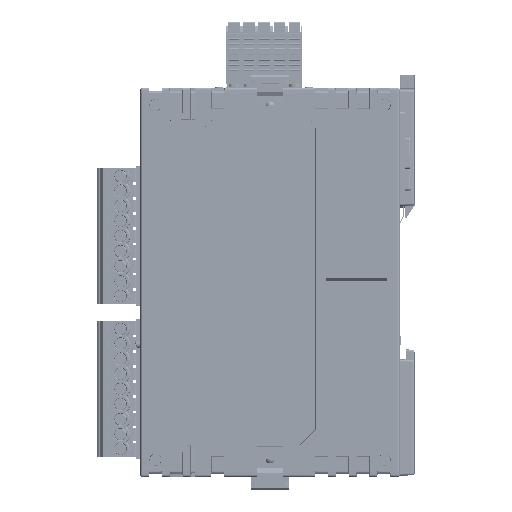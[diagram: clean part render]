
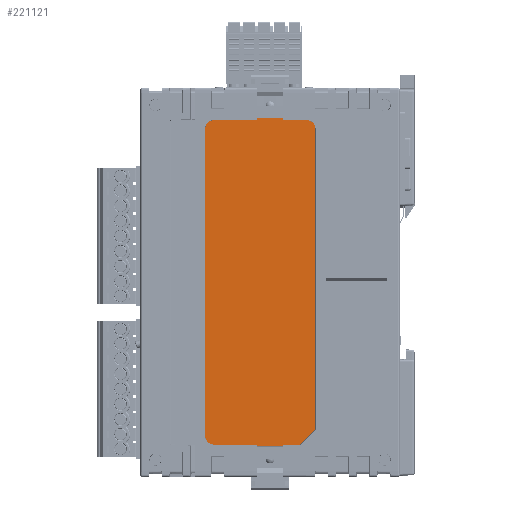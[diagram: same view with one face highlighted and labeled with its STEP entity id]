
A CAD part, left-side view. The second image highlights one B-rep face of the part: STEP entity #221121.
In plain terms, the highlighted planar face has unit normal (-1, 0, 0).
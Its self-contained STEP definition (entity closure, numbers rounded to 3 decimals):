
#5994=DIRECTION('',(0.,1.,0.));
#5995=VECTOR('',#5994,6.065);
#5996=CARTESIAN_POINT('',(-39.85,-21.432,37.933));
#5997=LINE('',#5996,#5995);
#6243=DIRECTION('',(0.,0.,1.));
#6244=VECTOR('',#6243,0.433);
#6245=CARTESIAN_POINT('',(-39.85,-21.432,-37.933));
#6246=LINE('',#6245,#6244);
#39419=DIRECTION('',(0.,0.,-1.));
#39420=VECTOR('',#39419,0.433);
#39421=CARTESIAN_POINT('',(-39.85,-15.368,37.933));
#39422=LINE('',#39421,#39420);
#39435=DIRECTION('',(0.,0.,-1.));
#39436=VECTOR('',#39435,0.433);
#39437=CARTESIAN_POINT('',(-39.85,-21.432,37.933));
#39438=LINE('',#39437,#39436);
#39439=DIRECTION('',(0.,-1.,0.));
#39440=VECTOR('',#39439,5.468);
#39441=CARTESIAN_POINT('',(-39.85,-21.432,37.5));
#39442=LINE('',#39441,#39440);
#39443=CARTESIAN_POINT('',(-39.85,-26.9,35.5));
#39444=DIRECTION('',(1.,0.,0.));
#39445=DIRECTION('',(0.,0.,1.));
#39446=AXIS2_PLACEMENT_3D('',#39443,#39444,#39445);
#39448=DIRECTION('',(0.,0.,-1.));
#39449=VECTOR('',#39448,69.5);
#39450=CARTESIAN_POINT('',(-39.85,-28.9,35.5));
#39451=LINE('',#39450,#39449);
#39452=DIRECTION('',(0.,0.707,-0.707));
#39453=VECTOR('',#39452,4.95);
#39454=CARTESIAN_POINT('',(-39.85,-28.9,-34.));
#39455=LINE('',#39454,#39453);
#39456=DIRECTION('',(0.,1.,0.));
#39457=VECTOR('',#39456,3.968);
#39458=CARTESIAN_POINT('',(-39.85,-25.4,-37.5));
#39459=LINE('',#39458,#39457);
#39460=DIRECTION('',(0.,0.,1.));
#39461=VECTOR('',#39460,0.433);
#39462=CARTESIAN_POINT('',(-39.85,-15.368,-37.933));
#39463=LINE('',#39462,#39461);
#39464=DIRECTION('',(0.,1.,0.));
#39465=VECTOR('',#39464,9.968);
#39466=CARTESIAN_POINT('',(-39.85,-15.368,-37.5));
#39467=LINE('',#39466,#39465);
#39468=CARTESIAN_POINT('',(-39.85,-5.4,-35.5));
#39469=DIRECTION('',(1.,0.,0.));
#39470=DIRECTION('',(0.,0.,-1.));
#39471=AXIS2_PLACEMENT_3D('',#39468,#39469,#39470);
#39473=DIRECTION('',(0.,0.,1.));
#39474=VECTOR('',#39473,71.);
#39475=CARTESIAN_POINT('',(-39.85,-3.4,-35.5));
#39476=LINE('',#39475,#39474);
#39477=CARTESIAN_POINT('',(-39.85,-5.4,35.5));
#39478=DIRECTION('',(1.,0.,0.));
#39479=DIRECTION('',(0.,1.,0.));
#39480=AXIS2_PLACEMENT_3D('',#39477,#39478,#39479);
#39482=DIRECTION('',(0.,-1.,0.));
#39483=VECTOR('',#39482,9.968);
#39484=CARTESIAN_POINT('',(-39.85,-5.4,37.5));
#39485=LINE('',#39484,#39483);
#39534=DIRECTION('',(0.,-1.,0.));
#39535=VECTOR('',#39534,6.065);
#39536=CARTESIAN_POINT('',(-39.85,-15.368,-37.933));
#39537=LINE('',#39536,#39535);
#125524=CARTESIAN_POINT('',(-39.85,-15.368,-37.933));
#125525=CARTESIAN_POINT('',(-39.85,-21.432,-37.933));
#125526=VERTEX_POINT('',#125524);
#125527=VERTEX_POINT('',#125525);
#125536=CARTESIAN_POINT('',(-39.85,-21.432,37.933));
#125537=CARTESIAN_POINT('',(-39.85,-15.368,37.933));
#125538=VERTEX_POINT('',#125536);
#125539=VERTEX_POINT('',#125537);
#125540=CARTESIAN_POINT('',(-39.85,-21.432,37.5));
#125541=VERTEX_POINT('',#125540);
#125542=CARTESIAN_POINT('',(-39.85,-26.9,37.5));
#125543=VERTEX_POINT('',#125542);
#125544=CARTESIAN_POINT('',(-39.85,-28.9,35.5));
#125545=VERTEX_POINT('',#125544);
#125546=CARTESIAN_POINT('',(-39.85,-28.9,-34.));
#125547=VERTEX_POINT('',#125546);
#125548=CARTESIAN_POINT('',(-39.85,-25.4,-37.5));
#125549=VERTEX_POINT('',#125548);
#125550=CARTESIAN_POINT('',(-39.85,-21.432,-37.5));
#125551=VERTEX_POINT('',#125550);
#125552=CARTESIAN_POINT('',(-39.85,-15.368,-37.5));
#125553=VERTEX_POINT('',#125552);
#125554=CARTESIAN_POINT('',(-39.85,-5.4,-37.5));
#125555=VERTEX_POINT('',#125554);
#125556=CARTESIAN_POINT('',(-39.85,-3.4,-35.5));
#125557=VERTEX_POINT('',#125556);
#125558=CARTESIAN_POINT('',(-39.85,-3.4,35.5));
#125559=VERTEX_POINT('',#125558);
#125560=CARTESIAN_POINT('',(-39.85,-5.4,37.5));
#125561=VERTEX_POINT('',#125560);
#125562=CARTESIAN_POINT('',(-39.85,-15.368,37.5));
#125563=VERTEX_POINT('',#125562);
#221086=CARTESIAN_POINT('',(-39.85,-48.4,0.));
#221087=DIRECTION('',(-1.,0.,0.));
#221088=DIRECTION('',(0.,0.,-1.));
#221089=AXIS2_PLACEMENT_3D('',#221086,#221087,#221088);
#221090=PLANE('',#221089);
#221091=ORIENTED_EDGE('',*,*,#161684,.F.);
#221092=ORIENTED_EDGE('',*,*,#161753,.T.);
#221094=ORIENTED_EDGE('',*,*,#221093,.T.);
#221096=ORIENTED_EDGE('',*,*,#221095,.T.);
#221098=ORIENTED_EDGE('',*,*,#221097,.T.);
#221100=ORIENTED_EDGE('',*,*,#221099,.T.);
#221102=ORIENTED_EDGE('',*,*,#221101,.T.);
#221103=ORIENTED_EDGE('',*,*,#161921,.F.);
#221105=ORIENTED_EDGE('',*,*,#221104,.F.);
#221107=ORIENTED_EDGE('',*,*,#221106,.T.);
#221109=ORIENTED_EDGE('',*,*,#221108,.T.);
#221111=ORIENTED_EDGE('',*,*,#221110,.T.);
#221113=ORIENTED_EDGE('',*,*,#221112,.T.);
#221115=ORIENTED_EDGE('',*,*,#221114,.T.);
#221117=ORIENTED_EDGE('',*,*,#221116,.T.);
#221118=ORIENTED_EDGE('',*,*,#221066,.F.);
#221119=EDGE_LOOP('',(#221091,#221092,#221094,#221096,#221098,#221100,#221102,
#221103,#221105,#221107,#221109,#221111,#221113,#221115,#221117,#221118));
#221120=FACE_OUTER_BOUND('',#221119,.F.);
#39447=CIRCLE('',#39446,2.);
#39472=CIRCLE('',#39471,2.);
#39481=CIRCLE('',#39480,2.);
#161684=EDGE_CURVE('',#125538,#125539,#5997,.T.);
#161753=EDGE_CURVE('',#125538,#125541,#39438,.T.);
#161921=EDGE_CURVE('',#125527,#125551,#6246,.T.);
#221066=EDGE_CURVE('',#125539,#125563,#39422,.T.);
#221093=EDGE_CURVE('',#125541,#125543,#39442,.T.);
#221095=EDGE_CURVE('',#125543,#125545,#39447,.T.);
#221097=EDGE_CURVE('',#125545,#125547,#39451,.T.);
#221099=EDGE_CURVE('',#125547,#125549,#39455,.T.);
#221101=EDGE_CURVE('',#125549,#125551,#39459,.T.);
#221104=EDGE_CURVE('',#125526,#125527,#39537,.T.);
#221106=EDGE_CURVE('',#125526,#125553,#39463,.T.);
#221108=EDGE_CURVE('',#125553,#125555,#39467,.T.);
#221110=EDGE_CURVE('',#125555,#125557,#39472,.T.);
#221112=EDGE_CURVE('',#125557,#125559,#39476,.T.);
#221114=EDGE_CURVE('',#125559,#125561,#39481,.T.);
#221116=EDGE_CURVE('',#125561,#125563,#39485,.T.);
#221121=ADVANCED_FACE('',(#221120),#221090,.T.);
